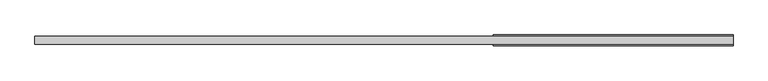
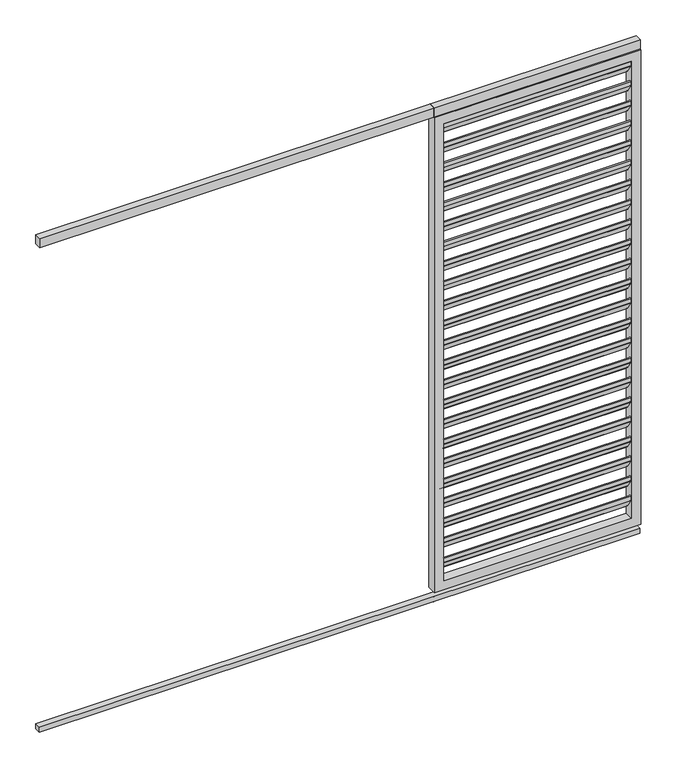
"""IFC4 building model written with IfcOpenShell, lengths in millimetres: proxy geometry, Renson_Camargue_Loggia_Paro_Aluminium : Renson_Camargue_Loggia_Paro_Aluminium."""

from ifc_helpers import new_model, si_unit, point, frame, frame_2d, origin, origin_with_axes, place, context, project, spatial, polyline, circle_curve, trimmed, segment, composite_curve, outline, extrude, source, transform, mapped, element, save


def generic_models_b124467e(model_context):
    return source(origin(), model_context, "Body", "SweptSolid", [
        extrude(outline(composite_curve([segment(polyline([(-10.1515804, 2164.292689), (14.3324079, 2126.5906532), (14.3324079, 2107.3412281)]), True, "CONTINUOUS"), segment(trimmed(circle_curve(frame_2d((11.3324079, 2107.3412281)), 3.0), [point((14.3324079, 2107.3412281))], [point((8.8163962, 2105.707311))], False, "CARTESIAN"), True, "CONTINUOUS"), segment(polyline([(8.8163962, 2105.707311), (-15.1836038, 2142.6640702)]), True, "CONTINUOUS"), segment(trimmed(circle_curve(frame_2d((-12.6675921, 2144.2979873)), 3.0), [point((-15.1836038, 2142.6640702))], [point((-15.6675921, 2144.2979873))], False, "CARTESIAN"), True, "CONTINUOUS"), segment(polyline([(-15.6675921, 2144.2979873), (-15.6675921, 2162.6587719)]), True, "CONTINUOUS"), segment(trimmed(circle_curve(frame_2d((-12.6675921, 2162.6587719)), 3.0), [point((-15.6675921, 2162.6587719))], [point((-10.1515804, 2164.292689))], False, "CARTESIAN"), True, "CONTINUOUS")], self_intersect=False)), frame((-405.0, 0.0, 0.0), z_axis=(1.0, 0.0, 0.0), x_axis=(0.0, 1.0, 0.0)), (0.0, 0.0, 1.0), 810.0),
        extrude(outline(composite_curve([segment(polyline([(-10.1515804, 2074.292689), (14.3324079, 2036.5906532), (14.3324079, 2017.3412281)]), True, "CONTINUOUS"), segment(trimmed(circle_curve(frame_2d((11.3324079, 2017.3412281)), 3.0), [point((14.3324079, 2017.3412281))], [point((8.8163962, 2015.707311))], False, "CARTESIAN"), True, "CONTINUOUS"), segment(polyline([(8.8163962, 2015.707311), (-15.1836038, 2052.6640702)]), True, "CONTINUOUS"), segment(trimmed(circle_curve(frame_2d((-12.6675921, 2054.2979873)), 3.0), [point((-15.1836038, 2052.6640702))], [point((-15.6675921, 2054.2979873))], False, "CARTESIAN"), True, "CONTINUOUS"), segment(polyline([(-15.6675921, 2054.2979873), (-15.6675921, 2072.6587719)]), True, "CONTINUOUS"), segment(trimmed(circle_curve(frame_2d((-12.6675921, 2072.6587719)), 3.0), [point((-15.6675921, 2072.6587719))], [point((-10.1515804, 2074.292689))], False, "CARTESIAN"), True, "CONTINUOUS")], self_intersect=False)), frame((-405.0, 0.0, 0.0), z_axis=(1.0, 0.0, 0.0), x_axis=(0.0, 1.0, 0.0)), (0.0, 0.0, 1.0), 810.0),
        extrude(outline(composite_curve([segment(polyline([(-10.1515804, 1984.292689), (14.3324079, 1946.5906532), (14.3324079, 1927.3412281)]), True, "CONTINUOUS"), segment(trimmed(circle_curve(frame_2d((11.3324079, 1927.3412281)), 3.0), [point((14.3324079, 1927.3412281))], [point((8.8163962, 1925.707311))], False, "CARTESIAN"), True, "CONTINUOUS"), segment(polyline([(8.8163962, 1925.707311), (-15.1836038, 1962.6640702)]), True, "CONTINUOUS"), segment(trimmed(circle_curve(frame_2d((-12.6675921, 1964.2979873)), 3.0), [point((-15.1836038, 1962.6640702))], [point((-15.6675921, 1964.2979873))], False, "CARTESIAN"), True, "CONTINUOUS"), segment(polyline([(-15.6675921, 1964.2979873), (-15.6675921, 1982.6587719)]), True, "CONTINUOUS"), segment(trimmed(circle_curve(frame_2d((-12.6675921, 1982.6587719)), 3.0), [point((-15.6675921, 1982.6587719))], [point((-10.1515804, 1984.292689))], False, "CARTESIAN"), True, "CONTINUOUS")], self_intersect=False)), frame((-405.0, 0.0, 0.0), z_axis=(1.0, 0.0, 0.0), x_axis=(0.0, 1.0, 0.0)), (0.0, 0.0, 1.0), 810.0),
        extrude(outline(composite_curve([segment(polyline([(-10.1515804, 1894.292689), (14.3324079, 1856.5906532), (14.3324079, 1837.3412281)]), True, "CONTINUOUS"), segment(trimmed(circle_curve(frame_2d((11.3324079, 1837.3412281)), 3.0), [point((14.3324079, 1837.3412281))], [point((8.8163962, 1835.707311))], False, "CARTESIAN"), True, "CONTINUOUS"), segment(polyline([(8.8163962, 1835.707311), (-15.1836038, 1872.6640702)]), True, "CONTINUOUS"), segment(trimmed(circle_curve(frame_2d((-12.6675921, 1874.2979873)), 3.0), [point((-15.1836038, 1872.6640702))], [point((-15.6675921, 1874.2979873))], False, "CARTESIAN"), True, "CONTINUOUS"), segment(polyline([(-15.6675921, 1874.2979873), (-15.6675921, 1892.6587719)]), True, "CONTINUOUS"), segment(trimmed(circle_curve(frame_2d((-12.6675921, 1892.6587719)), 3.0), [point((-15.6675921, 1892.6587719))], [point((-10.1515804, 1894.292689))], False, "CARTESIAN"), True, "CONTINUOUS")], self_intersect=False)), frame((-405.0, 0.0, 0.0), z_axis=(1.0, 0.0, 0.0), x_axis=(0.0, 1.0, 0.0)), (0.0, 0.0, 1.0), 810.0),
        extrude(outline(composite_curve([segment(polyline([(-10.1515804, 1804.292689), (14.3324079, 1766.5906532), (14.3324079, 1747.3412281)]), True, "CONTINUOUS"), segment(trimmed(circle_curve(frame_2d((11.3324079, 1747.3412281)), 3.0), [point((14.3324079, 1747.3412281))], [point((8.8163962, 1745.707311))], False, "CARTESIAN"), True, "CONTINUOUS"), segment(polyline([(8.8163962, 1745.707311), (-15.1836038, 1782.6640702)]), True, "CONTINUOUS"), segment(trimmed(circle_curve(frame_2d((-12.6675921, 1784.2979873)), 3.0), [point((-15.1836038, 1782.6640702))], [point((-15.6675921, 1784.2979873))], False, "CARTESIAN"), True, "CONTINUOUS"), segment(polyline([(-15.6675921, 1784.2979873), (-15.6675921, 1802.6587719)]), True, "CONTINUOUS"), segment(trimmed(circle_curve(frame_2d((-12.6675921, 1802.6587719)), 3.0), [point((-15.6675921, 1802.6587719))], [point((-10.1515804, 1804.292689))], False, "CARTESIAN"), True, "CONTINUOUS")], self_intersect=False)), frame((-405.0, 0.0, 0.0), z_axis=(1.0, 0.0, 0.0), x_axis=(0.0, 1.0, 0.0)), (0.0, 0.0, 1.0), 810.0),
        extrude(outline(composite_curve([segment(polyline([(-10.1515804, 1714.292689), (14.3324079, 1676.5906532), (14.3324079, 1657.3412281)]), True, "CONTINUOUS"), segment(trimmed(circle_curve(frame_2d((11.3324079, 1657.3412281)), 3.0), [point((14.3324079, 1657.3412281))], [point((8.8163962, 1655.707311))], False, "CARTESIAN"), True, "CONTINUOUS"), segment(polyline([(8.8163962, 1655.707311), (-15.1836038, 1692.6640702)]), True, "CONTINUOUS"), segment(trimmed(circle_curve(frame_2d((-12.6675921, 1694.2979873)), 3.0), [point((-15.1836038, 1692.6640702))], [point((-15.6675921, 1694.2979873))], False, "CARTESIAN"), True, "CONTINUOUS"), segment(polyline([(-15.6675921, 1694.2979873), (-15.6675921, 1712.6587719)]), True, "CONTINUOUS"), segment(trimmed(circle_curve(frame_2d((-12.6675921, 1712.6587719)), 3.0), [point((-15.6675921, 1712.6587719))], [point((-10.1515804, 1714.292689))], False, "CARTESIAN"), True, "CONTINUOUS")], self_intersect=False)), frame((-405.0, 0.0, 0.0), z_axis=(1.0, 0.0, 0.0), x_axis=(0.0, 1.0, 0.0)), (0.0, 0.0, 1.0), 810.0),
        extrude(outline(composite_curve([segment(polyline([(-10.1515804, 1624.292689), (14.3324079, 1586.5906532), (14.3324079, 1567.3412281)]), True, "CONTINUOUS"), segment(trimmed(circle_curve(frame_2d((11.3324079, 1567.3412281)), 3.0), [point((14.3324079, 1567.3412281))], [point((8.8163962, 1565.707311))], False, "CARTESIAN"), True, "CONTINUOUS"), segment(polyline([(8.8163962, 1565.707311), (-15.1836038, 1602.6640702)]), True, "CONTINUOUS"), segment(trimmed(circle_curve(frame_2d((-12.6675921, 1604.2979873)), 3.0), [point((-15.1836038, 1602.6640702))], [point((-15.6675921, 1604.2979873))], False, "CARTESIAN"), True, "CONTINUOUS"), segment(polyline([(-15.6675921, 1604.2979873), (-15.6675921, 1622.6587719)]), True, "CONTINUOUS"), segment(trimmed(circle_curve(frame_2d((-12.6675921, 1622.6587719)), 3.0), [point((-15.6675921, 1622.6587719))], [point((-10.1515804, 1624.292689))], False, "CARTESIAN"), True, "CONTINUOUS")], self_intersect=False)), frame((-405.0, 0.0, 0.0), z_axis=(1.0, 0.0, 0.0), x_axis=(0.0, 1.0, 0.0)), (0.0, 0.0, 1.0), 810.0),
        extrude(outline(composite_curve([segment(polyline([(-10.1515804, 1534.292689), (14.3324079, 1496.5906532), (14.3324079, 1477.3412281)]), True, "CONTINUOUS"), segment(trimmed(circle_curve(frame_2d((11.3324079, 1477.3412281)), 3.0), [point((14.3324079, 1477.3412281))], [point((8.8163962, 1475.707311))], False, "CARTESIAN"), True, "CONTINUOUS"), segment(polyline([(8.8163962, 1475.707311), (-15.1836038, 1512.6640702)]), True, "CONTINUOUS"), segment(trimmed(circle_curve(frame_2d((-12.6675921, 1514.2979873)), 3.0), [point((-15.1836038, 1512.6640702))], [point((-15.6675921, 1514.2979873))], False, "CARTESIAN"), True, "CONTINUOUS"), segment(polyline([(-15.6675921, 1514.2979873), (-15.6675921, 1532.6587719)]), True, "CONTINUOUS"), segment(trimmed(circle_curve(frame_2d((-12.6675921, 1532.6587719)), 3.0), [point((-15.6675921, 1532.6587719))], [point((-10.1515804, 1534.292689))], False, "CARTESIAN"), True, "CONTINUOUS")], self_intersect=False)), frame((-405.0, 0.0, 0.0), z_axis=(1.0, 0.0, 0.0), x_axis=(0.0, 1.0, 0.0)), (0.0, 0.0, 1.0), 810.0),
        extrude(outline(composite_curve([segment(polyline([(-10.1515804, 1444.292689), (14.3324079, 1406.5906532), (14.3324079, 1387.3412281)]), True, "CONTINUOUS"), segment(trimmed(circle_curve(frame_2d((11.3324079, 1387.3412281)), 3.0), [point((14.3324079, 1387.3412281))], [point((8.8163962, 1385.707311))], False, "CARTESIAN"), True, "CONTINUOUS"), segment(polyline([(8.8163962, 1385.707311), (-15.1836038, 1422.6640702)]), True, "CONTINUOUS"), segment(trimmed(circle_curve(frame_2d((-12.6675921, 1424.2979873)), 3.0), [point((-15.1836038, 1422.6640702))], [point((-15.6675921, 1424.2979873))], False, "CARTESIAN"), True, "CONTINUOUS"), segment(polyline([(-15.6675921, 1424.2979873), (-15.6675921, 1442.6587719)]), True, "CONTINUOUS"), segment(trimmed(circle_curve(frame_2d((-12.6675921, 1442.6587719)), 3.0), [point((-15.6675921, 1442.6587719))], [point((-10.1515804, 1444.292689))], False, "CARTESIAN"), True, "CONTINUOUS")], self_intersect=False)), frame((-405.0, 0.0, 0.0), z_axis=(1.0, 0.0, 0.0), x_axis=(0.0, 1.0, 0.0)), (0.0, 0.0, 1.0), 810.0),
        extrude(outline(composite_curve([segment(polyline([(-10.1515804, 1354.292689), (14.3324079, 1316.5906532), (14.3324079, 1297.3412281)]), True, "CONTINUOUS"), segment(trimmed(circle_curve(frame_2d((11.3324079, 1297.3412281)), 3.0), [point((14.3324079, 1297.3412281))], [point((8.8163962, 1295.707311))], False, "CARTESIAN"), True, "CONTINUOUS"), segment(polyline([(8.8163962, 1295.707311), (-15.1836038, 1332.6640702)]), True, "CONTINUOUS"), segment(trimmed(circle_curve(frame_2d((-12.6675921, 1334.2979873)), 3.0), [point((-15.1836038, 1332.6640702))], [point((-15.6675921, 1334.2979873))], False, "CARTESIAN"), True, "CONTINUOUS"), segment(polyline([(-15.6675921, 1334.2979873), (-15.6675921, 1352.6587719)]), True, "CONTINUOUS"), segment(trimmed(circle_curve(frame_2d((-12.6675921, 1352.6587719)), 3.0), [point((-15.6675921, 1352.6587719))], [point((-10.1515804, 1354.292689))], False, "CARTESIAN"), True, "CONTINUOUS")], self_intersect=False)), frame((-405.0, 0.0, 0.0), z_axis=(1.0, 0.0, 0.0), x_axis=(0.0, 1.0, 0.0)), (0.0, 0.0, 1.0), 810.0),
        extrude(outline(composite_curve([segment(polyline([(-10.1515804, 1264.292689), (14.3324079, 1226.5906532), (14.3324079, 1207.3412281)]), True, "CONTINUOUS"), segment(trimmed(circle_curve(frame_2d((11.3324079, 1207.3412281)), 3.0), [point((14.3324079, 1207.3412281))], [point((8.8163962, 1205.707311))], False, "CARTESIAN"), True, "CONTINUOUS"), segment(polyline([(8.8163962, 1205.707311), (-15.1836038, 1242.6640702)]), True, "CONTINUOUS"), segment(trimmed(circle_curve(frame_2d((-12.6675921, 1244.2979873)), 3.0), [point((-15.1836038, 1242.6640702))], [point((-15.6675921, 1244.2979873))], False, "CARTESIAN"), True, "CONTINUOUS"), segment(polyline([(-15.6675921, 1244.2979873), (-15.6675921, 1262.6587719)]), True, "CONTINUOUS"), segment(trimmed(circle_curve(frame_2d((-12.6675921, 1262.6587719)), 3.0), [point((-15.6675921, 1262.6587719))], [point((-10.1515804, 1264.292689))], False, "CARTESIAN"), True, "CONTINUOUS")], self_intersect=False)), frame((-405.0, 0.0, 0.0), z_axis=(1.0, 0.0, 0.0), x_axis=(0.0, 1.0, 0.0)), (0.0, 0.0, 1.0), 810.0),
        extrude(outline(composite_curve([segment(polyline([(-10.1515804, 1174.292689), (14.3324079, 1136.5906532), (14.3324079, 1117.3412281)]), True, "CONTINUOUS"), segment(trimmed(circle_curve(frame_2d((11.3324079, 1117.3412281)), 3.0), [point((14.3324079, 1117.3412281))], [point((8.8163962, 1115.707311))], False, "CARTESIAN"), True, "CONTINUOUS"), segment(polyline([(8.8163962, 1115.707311), (-15.1836038, 1152.6640702)]), True, "CONTINUOUS"), segment(trimmed(circle_curve(frame_2d((-12.6675921, 1154.2979873)), 3.0), [point((-15.1836038, 1152.6640702))], [point((-15.6675921, 1154.2979873))], False, "CARTESIAN"), True, "CONTINUOUS"), segment(polyline([(-15.6675921, 1154.2979873), (-15.6675921, 1172.6587719)]), True, "CONTINUOUS"), segment(trimmed(circle_curve(frame_2d((-12.6675921, 1172.6587719)), 3.0), [point((-15.6675921, 1172.6587719))], [point((-10.1515804, 1174.292689))], False, "CARTESIAN"), True, "CONTINUOUS")], self_intersect=False)), frame((-405.0, 0.0, 0.0), z_axis=(1.0, 0.0, 0.0), x_axis=(0.0, 1.0, 0.0)), (0.0, 0.0, 1.0), 810.0),
        extrude(outline(composite_curve([segment(polyline([(-10.1515804, 1084.292689), (14.3324079, 1046.5906532), (14.3324079, 1027.3412281)]), True, "CONTINUOUS"), segment(trimmed(circle_curve(frame_2d((11.3324079, 1027.3412281)), 3.0), [point((14.3324079, 1027.3412281))], [point((8.8163962, 1025.707311))], False, "CARTESIAN"), True, "CONTINUOUS"), segment(polyline([(8.8163962, 1025.707311), (-15.1836038, 1062.6640702)]), True, "CONTINUOUS"), segment(trimmed(circle_curve(frame_2d((-12.6675921, 1064.2979873)), 3.0), [point((-15.1836038, 1062.6640702))], [point((-15.6675921, 1064.2979873))], False, "CARTESIAN"), True, "CONTINUOUS"), segment(polyline([(-15.6675921, 1064.2979873), (-15.6675921, 1082.6587719)]), True, "CONTINUOUS"), segment(trimmed(circle_curve(frame_2d((-12.6675921, 1082.6587719)), 3.0), [point((-15.6675921, 1082.6587719))], [point((-10.1515804, 1084.292689))], False, "CARTESIAN"), True, "CONTINUOUS")], self_intersect=False)), frame((-405.0, 0.0, 0.0), z_axis=(1.0, 0.0, 0.0), x_axis=(0.0, 1.0, 0.0)), (0.0, 0.0, 1.0), 810.0),
        extrude(outline(composite_curve([segment(polyline([(-10.1515804, 994.292689), (14.3324079, 956.5906532), (14.3324079, 937.3412281)]), True, "CONTINUOUS"), segment(trimmed(circle_curve(frame_2d((11.3324079, 937.3412281)), 3.0), [point((14.3324079, 937.3412281))], [point((8.8163962, 935.707311))], False, "CARTESIAN"), True, "CONTINUOUS"), segment(polyline([(8.8163962, 935.707311), (-15.1836038, 972.6640702)]), True, "CONTINUOUS"), segment(trimmed(circle_curve(frame_2d((-12.6675921, 974.2979873)), 3.0), [point((-15.1836038, 972.6640702))], [point((-15.6675921, 974.2979873))], False, "CARTESIAN"), True, "CONTINUOUS"), segment(polyline([(-15.6675921, 974.2979873), (-15.6675921, 992.6587719)]), True, "CONTINUOUS"), segment(trimmed(circle_curve(frame_2d((-12.6675921, 992.6587719)), 3.0), [point((-15.6675921, 992.6587719))], [point((-10.1515804, 994.292689))], False, "CARTESIAN"), True, "CONTINUOUS")], self_intersect=False)), frame((-405.0, 0.0, 0.0), z_axis=(1.0, 0.0, 0.0), x_axis=(0.0, 1.0, 0.0)), (0.0, 0.0, 1.0), 810.0),
        extrude(outline(composite_curve([segment(polyline([(-10.1515804, 904.292689), (14.3324079, 866.5906532), (14.3324079, 847.3412281)]), True, "CONTINUOUS"), segment(trimmed(circle_curve(frame_2d((11.3324079, 847.3412281)), 3.0), [point((14.3324079, 847.3412281))], [point((8.8163962, 845.707311))], False, "CARTESIAN"), True, "CONTINUOUS"), segment(polyline([(8.8163962, 845.707311), (-15.1836038, 882.6640702)]), True, "CONTINUOUS"), segment(trimmed(circle_curve(frame_2d((-12.6675921, 884.2979873)), 3.0), [point((-15.1836038, 882.6640702))], [point((-15.6675921, 884.2979873))], False, "CARTESIAN"), True, "CONTINUOUS"), segment(polyline([(-15.6675921, 884.2979873), (-15.6675921, 902.6587719)]), True, "CONTINUOUS"), segment(trimmed(circle_curve(frame_2d((-12.6675921, 902.6587719)), 3.0), [point((-15.6675921, 902.6587719))], [point((-10.1515804, 904.292689))], False, "CARTESIAN"), True, "CONTINUOUS")], self_intersect=False)), frame((-405.0, 0.0, 0.0), z_axis=(1.0, 0.0, 0.0), x_axis=(0.0, 1.0, 0.0)), (0.0, 0.0, 1.0), 810.0),
        extrude(outline(composite_curve([segment(polyline([(-10.1515804, 814.292689), (14.3324079, 776.5906532), (14.3324079, 757.3412281)]), True, "CONTINUOUS"), segment(trimmed(circle_curve(frame_2d((11.3324079, 757.3412281)), 3.0), [point((14.3324079, 757.3412281))], [point((8.8163962, 755.707311))], False, "CARTESIAN"), True, "CONTINUOUS"), segment(polyline([(8.8163962, 755.707311), (-15.1836038, 792.6640702)]), True, "CONTINUOUS"), segment(trimmed(circle_curve(frame_2d((-12.6675921, 794.2979873)), 3.0), [point((-15.1836038, 792.6640702))], [point((-15.6675921, 794.2979873))], False, "CARTESIAN"), True, "CONTINUOUS"), segment(polyline([(-15.6675921, 794.2979873), (-15.6675921, 812.6587719)]), True, "CONTINUOUS"), segment(trimmed(circle_curve(frame_2d((-12.6675921, 812.6587719)), 3.0), [point((-15.6675921, 812.6587719))], [point((-10.1515804, 814.292689))], False, "CARTESIAN"), True, "CONTINUOUS")], self_intersect=False)), frame((-405.0, 0.0, 0.0), z_axis=(1.0, 0.0, 0.0), x_axis=(0.0, 1.0, 0.0)), (0.0, 0.0, 1.0), 810.0),
        extrude(outline(composite_curve([segment(polyline([(-10.1515804, 724.292689), (14.3324079, 686.5906532), (14.3324079, 667.3412281)]), True, "CONTINUOUS"), segment(trimmed(circle_curve(frame_2d((11.3324079, 667.3412281)), 3.0), [point((14.3324079, 667.3412281))], [point((8.8163962, 665.707311))], False, "CARTESIAN"), True, "CONTINUOUS"), segment(polyline([(8.8163962, 665.707311), (-15.1836038, 702.6640702)]), True, "CONTINUOUS"), segment(trimmed(circle_curve(frame_2d((-12.6675921, 704.2979873)), 3.0), [point((-15.1836038, 702.6640702))], [point((-15.6675921, 704.2979873))], False, "CARTESIAN"), True, "CONTINUOUS"), segment(polyline([(-15.6675921, 704.2979873), (-15.6675921, 722.6587719)]), True, "CONTINUOUS"), segment(trimmed(circle_curve(frame_2d((-12.6675921, 722.6587719)), 3.0), [point((-15.6675921, 722.6587719))], [point((-10.1515804, 724.292689))], False, "CARTESIAN"), True, "CONTINUOUS")], self_intersect=False)), frame((-405.0, 0.0, 0.0), z_axis=(1.0, 0.0, 0.0), x_axis=(0.0, 1.0, 0.0)), (0.0, 0.0, 1.0), 810.0),
        extrude(outline(composite_curve([segment(polyline([(-10.1515804, 634.292689), (14.3324079, 596.5906532), (14.3324079, 577.3412281)]), True, "CONTINUOUS"), segment(trimmed(circle_curve(frame_2d((11.3324079, 577.3412281)), 3.0), [point((14.3324079, 577.3412281))], [point((8.8163962, 575.707311))], False, "CARTESIAN"), True, "CONTINUOUS"), segment(polyline([(8.8163962, 575.707311), (-15.1836038, 612.6640702)]), True, "CONTINUOUS"), segment(trimmed(circle_curve(frame_2d((-12.6675921, 614.2979873)), 3.0), [point((-15.1836038, 612.6640702))], [point((-15.6675921, 614.2979873))], False, "CARTESIAN"), True, "CONTINUOUS"), segment(polyline([(-15.6675921, 614.2979873), (-15.6675921, 632.6587719)]), True, "CONTINUOUS"), segment(trimmed(circle_curve(frame_2d((-12.6675921, 632.6587719)), 3.0), [point((-15.6675921, 632.6587719))], [point((-10.1515804, 634.292689))], False, "CARTESIAN"), True, "CONTINUOUS")], self_intersect=False)), frame((-405.0, 0.0, 0.0), z_axis=(1.0, 0.0, 0.0), x_axis=(0.0, 1.0, 0.0)), (0.0, 0.0, 1.0), 810.0),
        extrude(outline(composite_curve([segment(polyline([(-10.1515804, 544.292689), (14.3324079, 506.5906532), (14.3324079, 487.3412281)]), True, "CONTINUOUS"), segment(trimmed(circle_curve(frame_2d((11.3324079, 487.3412281)), 3.0), [point((14.3324079, 487.3412281))], [point((8.8163962, 485.707311))], False, "CARTESIAN"), True, "CONTINUOUS"), segment(polyline([(8.8163962, 485.707311), (-15.1836038, 522.6640702)]), True, "CONTINUOUS"), segment(trimmed(circle_curve(frame_2d((-12.6675921, 524.2979873)), 3.0), [point((-15.1836038, 522.6640702))], [point((-15.6675921, 524.2979873))], False, "CARTESIAN"), True, "CONTINUOUS"), segment(polyline([(-15.6675921, 524.2979873), (-15.6675921, 542.6587719)]), True, "CONTINUOUS"), segment(trimmed(circle_curve(frame_2d((-12.6675921, 542.6587719)), 3.0), [point((-15.6675921, 542.6587719))], [point((-10.1515804, 544.292689))], False, "CARTESIAN"), True, "CONTINUOUS")], self_intersect=False)), frame((-405.0, 0.0, 0.0), z_axis=(1.0, 0.0, 0.0), x_axis=(0.0, 1.0, 0.0)), (0.0, 0.0, 1.0), 810.0),
        extrude(outline(composite_curve([segment(polyline([(-10.1515804, 454.292689), (14.3324079, 416.5906532), (14.3324079, 397.3412281)]), True, "CONTINUOUS"), segment(trimmed(circle_curve(frame_2d((11.3324079, 397.3412281)), 3.0), [point((14.3324079, 397.3412281))], [point((8.8163962, 395.707311))], False, "CARTESIAN"), True, "CONTINUOUS"), segment(polyline([(8.8163962, 395.707311), (-15.1836038, 432.6640702)]), True, "CONTINUOUS"), segment(trimmed(circle_curve(frame_2d((-12.6675921, 434.2979873)), 3.0), [point((-15.1836038, 432.6640702))], [point((-15.6675921, 434.2979873))], False, "CARTESIAN"), True, "CONTINUOUS"), segment(polyline([(-15.6675921, 434.2979873), (-15.6675921, 452.6587719)]), True, "CONTINUOUS"), segment(trimmed(circle_curve(frame_2d((-12.6675921, 452.6587719)), 3.0), [point((-15.6675921, 452.6587719))], [point((-10.1515804, 454.292689))], False, "CARTESIAN"), True, "CONTINUOUS")], self_intersect=False)), frame((-405.0, 0.0, 0.0), z_axis=(1.0, 0.0, 0.0), x_axis=(0.0, 1.0, 0.0)), (0.0, 0.0, 1.0), 810.0),
        extrude(outline(composite_curve([segment(polyline([(-10.1515804, 364.292689), (14.3324079, 326.5906532), (14.3324079, 307.3412281)]), True, "CONTINUOUS"), segment(trimmed(circle_curve(frame_2d((11.3324079, 307.3412281)), 3.0), [point((14.3324079, 307.3412281))], [point((8.8163962, 305.707311))], False, "CARTESIAN"), True, "CONTINUOUS"), segment(polyline([(8.8163962, 305.707311), (-15.1836038, 342.6640702)]), True, "CONTINUOUS"), segment(trimmed(circle_curve(frame_2d((-12.6675921, 344.2979873)), 3.0), [point((-15.1836038, 342.6640702))], [point((-15.6675921, 344.2979873))], False, "CARTESIAN"), True, "CONTINUOUS"), segment(polyline([(-15.6675921, 344.2979873), (-15.6675921, 362.6587719)]), True, "CONTINUOUS"), segment(trimmed(circle_curve(frame_2d((-12.6675921, 362.6587719)), 3.0), [point((-15.6675921, 362.6587719))], [point((-10.1515804, 364.292689))], False, "CARTESIAN"), True, "CONTINUOUS")], self_intersect=False)), frame((-405.0, 0.0, 0.0), z_axis=(1.0, 0.0, 0.0), x_axis=(0.0, 1.0, 0.0)), (0.0, 0.0, 1.0), 810.0),
        extrude(outline(composite_curve([segment(polyline([(-10.1515804, 274.292689), (14.3324079, 236.5906532), (14.3324079, 217.3412281)]), True, "CONTINUOUS"), segment(trimmed(circle_curve(frame_2d((11.3324079, 217.3412281)), 3.0), [point((14.3324079, 217.3412281))], [point((8.8163962, 215.707311))], False, "CARTESIAN"), True, "CONTINUOUS"), segment(polyline([(8.8163962, 215.707311), (-15.1836038, 252.6640702)]), True, "CONTINUOUS"), segment(trimmed(circle_curve(frame_2d((-12.6675921, 254.2979873)), 3.0), [point((-15.1836038, 252.6640702))], [point((-15.6675921, 254.2979873))], False, "CARTESIAN"), True, "CONTINUOUS"), segment(polyline([(-15.6675921, 254.2979873), (-15.6675921, 272.6587719)]), True, "CONTINUOUS"), segment(trimmed(circle_curve(frame_2d((-12.6675921, 272.6587719)), 3.0), [point((-15.6675921, 272.6587719))], [point((-10.1515804, 274.292689))], False, "CARTESIAN"), True, "CONTINUOUS")], self_intersect=False)), frame((-405.0, 0.0, 0.0), z_axis=(1.0, 0.0, 0.0), x_axis=(0.0, 1.0, 0.0)), (0.0, 0.0, 1.0), 810.0),
        extrude(outline(composite_curve([segment(polyline([(-10.1515804, 184.292689), (14.3324079, 146.5906532), (14.3324079, 127.3412281)]), True, "CONTINUOUS"), segment(trimmed(circle_curve(frame_2d((11.3324079, 127.3412281)), 3.0), [point((14.3324079, 127.3412281))], [point((8.8163962, 125.707311))], False, "CARTESIAN"), True, "CONTINUOUS"), segment(polyline([(8.8163962, 125.707311), (-15.1836038, 162.6640702)]), True, "CONTINUOUS"), segment(trimmed(circle_curve(frame_2d((-12.6675921, 164.2979873)), 3.0), [point((-15.1836038, 162.6640702))], [point((-15.6675921, 164.2979873))], False, "CARTESIAN"), True, "CONTINUOUS"), segment(polyline([(-15.6675921, 164.2979873), (-15.6675921, 182.6587719)]), True, "CONTINUOUS"), segment(trimmed(circle_curve(frame_2d((-12.6675921, 182.6587719)), 3.0), [point((-15.6675921, 182.6587719))], [point((-10.1515804, 184.292689))], False, "CARTESIAN"), True, "CONTINUOUS")], self_intersect=False)), frame((-405.0, 0.0, 0.0), z_axis=(1.0, 0.0, 0.0), x_axis=(0.0, 1.0, 0.0)), (0.0, 0.0, 1.0), 810.0),
        extrude(outline(polyline([(445.0, -15.0), (-2145.0, -15.0), (-2145.0, 15.0), (445.0, 15.0), (445.0, -15.0)])), frame((0.0, 0.0, 2207.7138321), z_axis=(0.0, 0.0, 1.0), x_axis=(1.0, 0.0, 0.0)), (0.0, 0.0, 1.0), 42.2861679),
        extrude(outline(polyline([(-444.0, -15.0), (-445.0, -15.0), (-445.0, 15.0), (-444.0, 15.0), (-444.0, -15.0)])), frame((0.0, 0.0, 2207.7138321), z_axis=(0.0, 0.0, 1.0), x_axis=(1.0, 0.0, 0.0)), (0.0, 0.0, 1.0), 42.2861679),
        extrude(outline(polyline([(445.0, 13.0), (445.0, -14.0), (-2145.0, -14.0), (-2145.0, 13.0), (445.0, 13.0)])), origin_with_axes(), (0.0, 0.0, 1.0), 23.0),
        extrude(outline(polyline([(-444.0, 13.0), (-444.0, -14.0), (-445.0, -14.0), (-445.0, 13.0), (-444.0, 13.0)])), origin_with_axes(), (0.0, 0.0, 1.0), 23.0),
        extrude(outline(polyline([(2207.7138321, 445.0), (2207.7138321, -445.0), (45.0, -445.0), (45.0, 445.0), (2207.7138321, 445.0)]), holes=[polyline([(2167.7138321, -405.0), (2167.7138321, 405.0), (85.0, 405.0), (85.0, -405.0), (2167.7138321, -405.0)])]), frame((0.0, -20.0, 0.0), z_axis=(0.0, 1.0, 0.0), x_axis=(0.0, 0.0, 1.0)), (0.0, 0.0, 1.0), 40.0),
    ])


if __name__ == "__main__":
    model = new_model("IFC4")
    model_context = context("Model", 3, world=origin())
    ifc_project = project(units=[si_unit("LENGTHUNIT", "METRE", prefix="MILLI")], contexts=[model_context])
    site = spatial("IfcSite", under=ifc_project)
    building = spatial("IfcBuilding", under=site)
    placement = place(None, origin())
    generic_models_shape = generic_models_b124467e(model_context)
    element("IfcBuildingElementProxy", 1, Name="Renson_Camargue_Loggia_Paro_Aluminium : Renson_Camargue_Loggia_Paro_Aluminium", ObjectType="Renson_Camargue_Loggia_Paro_Aluminium : Renson_Camargue_Loggia_Paro_Aluminium", at=placement, inside=building, context=model_context, shape_type="MappedRepresentation", body=[
        mapped(generic_models_shape, transform((0.0, 0.0, 0.0), x_axis=(1.0, 0.0, 0.0), y_axis=(0.0, 1.0, 0.0), z_axis=(0.0, 0.0, 1.0))),
    ])
    save(model, "model.ifc")
